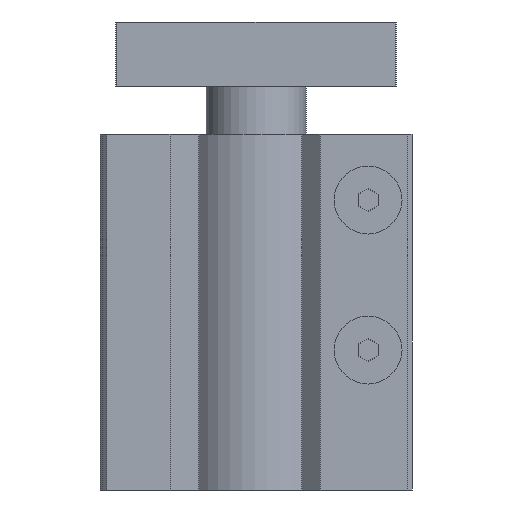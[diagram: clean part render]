
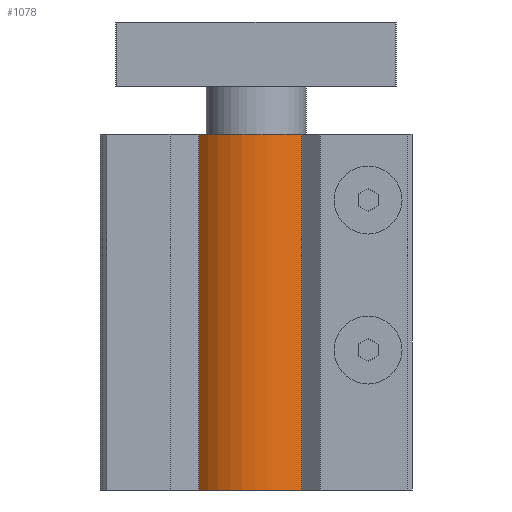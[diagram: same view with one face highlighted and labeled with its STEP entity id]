
A CAD part, front view. The second image highlights one B-rep face of the part: STEP entity #1078.
In plain terms, the highlighted cylindrical face has radius 18.5 mm (diameter 37 mm), a partial arc.
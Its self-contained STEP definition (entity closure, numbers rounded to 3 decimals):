
#1078 = ADVANCED_FACE( '', ( #2249 ), #2250, .T. );
#2249 = FACE_OUTER_BOUND( '', #3439, .T. );
#2250 = CYLINDRICAL_SURFACE( '', #3440, 18.5 );
#3439 = EDGE_LOOP( '', ( #6151, #6152, #6153, #6154 ) );
#3440 = AXIS2_PLACEMENT_3D( '', #6155, #6156, #6157 );
#6151 = ORIENTED_EDGE( '', *, *, #7413, .F. );
#6152 = ORIENTED_EDGE( '', *, *, #6721, .F. );
#6153 = ORIENTED_EDGE( '', *, *, #7559, .T. );
#6154 = ORIENTED_EDGE( '', *, *, #7304, .T. );
#6155 = CARTESIAN_POINT( '', ( 0., -62., -89. ) );
#6156 = DIRECTION( '', ( 0., 0., -1. ) );
#6157 = DIRECTION( '', ( 1., 0., 0. ) );
#6721 = EDGE_CURVE( '', #8011, #8006, #8013, .T. );
#7304 = EDGE_CURVE( '', #8896, #8894, #8897, .T. );
#7413 = EDGE_CURVE( '', #8006, #8894, #9043, .T. );
#7559 = EDGE_CURVE( '', #8011, #8896, #9212, .T. );
#8006 = VERTEX_POINT( '', #9842 );
#8011 = VERTEX_POINT( '', #9849 );
#8013 = LINE( '', #9852, #9853 );
#8894 = VERTEX_POINT( '', #11154 );
#8896 = VERTEX_POINT( '', #11157 );
#8897 = LINE( '', #11158, #11159 );
#9043 = CIRCLE( '', #11357, 18.5 );
#9212 = CIRCLE( '', #11582, 18.5 );
#9842 = CARTESIAN_POINT( '', ( -14.272, -73.772, 0. ) );
#9849 = CARTESIAN_POINT( '', ( -14.272, -73.772, -89. ) );
#9852 = CARTESIAN_POINT( '', ( -14.272, -73.772, -89. ) );
#9853 = VECTOR( '', #11925, 1000. );
#11154 = CARTESIAN_POINT( '', ( 11.495, -76.495, 0. ) );
#11157 = CARTESIAN_POINT( '', ( 11.495, -76.495, -89. ) );
#11158 = CARTESIAN_POINT( '', ( 11.495, -76.495, -89. ) );
#11159 = VECTOR( '', #12596, 1000. );
#11357 = AXIS2_PLACEMENT_3D( '', #12748, #12749, #12750 );
#11582 = AXIS2_PLACEMENT_3D( '', #12867, #12868, #12869 );
#11925 = DIRECTION( '', ( 0., 0., 1. ) );
#12596 = DIRECTION( '', ( 0., 0., 1. ) );
#12748 = CARTESIAN_POINT( '', ( 0., -62., 0. ) );
#12749 = DIRECTION( '', ( 0., 0., 1. ) );
#12750 = DIRECTION( '', ( 1., 0., 0. ) );
#12867 = CARTESIAN_POINT( '', ( 0., -62., -89. ) );
#12868 = DIRECTION( '', ( 0., 0., 1. ) );
#12869 = DIRECTION( '', ( 1., 0., 0. ) );
